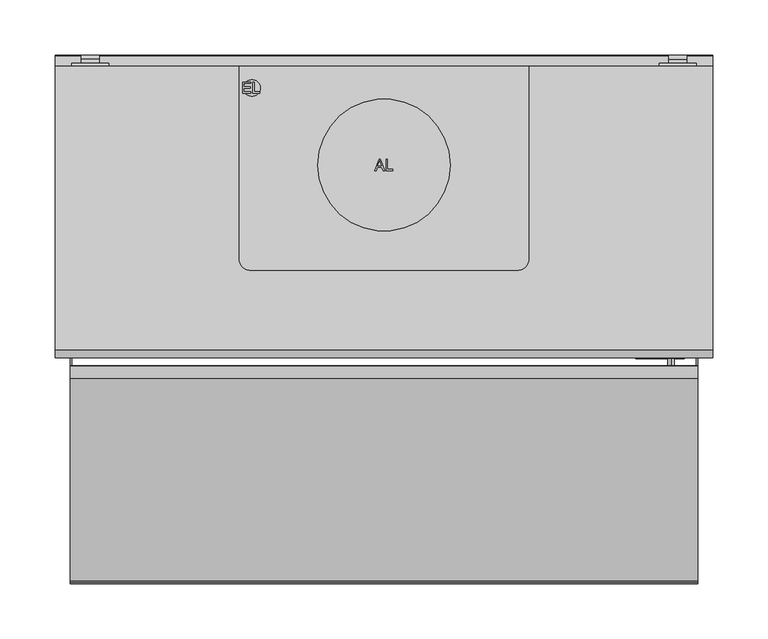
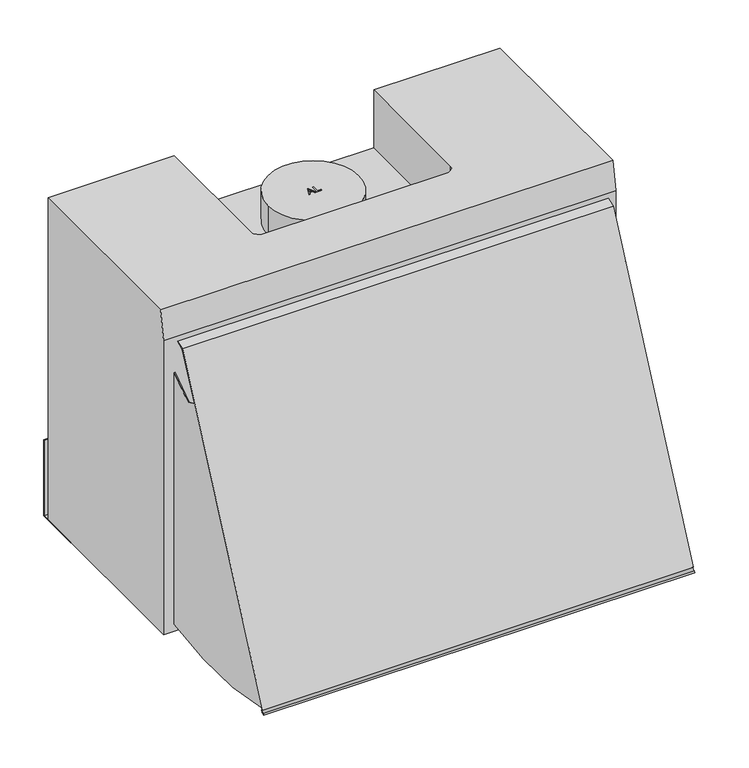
"""IFC4 building model written with IfcOpenShell, lengths in millimetres: proxy geometry, 12697760_D_DAZ1620_EDST-OPTIK : 28Z1620S_D_12697760_DAZ1620_EDST-OPTIK."""

from ifc_helpers import new_model, si_unit, point, frame, frame_2d, origin, place, context, project, spatial, polyline, circle_curve, ellipse_curve, trimmed, segment, composite_curve, outline, extrude, source, transform, mapped, element, save
from ifc_brep_helpers import plane_surface, cylinder_surface, revolved_surface, advanced_brep


def specialty_equipment_7dc275c3(model_context):
    return source(origin(), model_context, "Body", "SolidModel", [
        advanced_brep(
        [(261.0, -276.0, 120.0), (261.0, -276.0, 114.0), (261.0, -286.0, 114.0), (261.0, -286.0, 120.0), (261.0, -276.0, 117.0), (261.0, -289.0, 117.0)],
        [
            (0, 1, circle_curve(frame((261.0, -276.0, 117.0), z_axis=(0.0, -1.0, 0.0), x_axis=(0.0, 0.0, -1.0)), 3.0)),
            (1, 2),
            (2, 3, circle_curve(frame((261.0, -286.0, 117.0), z_axis=(0.0, 1.0, 0.0), x_axis=(0.0, 0.0, -1.0)), 3.0)),
            (3, 0),
            (1, 0, circle_curve(frame((261.0, -276.0, 117.0), z_axis=(0.0, -1.0, 0.0), x_axis=(0.0, 0.0, -1.0)), 3.0)),
            (3, 2, circle_curve(frame((261.0, -286.0, 117.0), z_axis=(0.0, 1.0, 0.0), x_axis=(0.0, 0.0, -1.0)), 3.0)),
            (4, 1),
            (0, 4),
            (2, 5, circle_curve(frame((261.0, -286.0, 117.0), z_axis=(-1.0, 0.0, 0.0), x_axis=(0.0, 1.0, 0.0)), 3.0)),
            (5, 3, circle_curve(frame((261.0, -286.0, 117.0), z_axis=(-1.0, 0.0, 0.0), x_axis=(0.0, 1.0, 0.0)), 3.0)),
        ],
        [
            cylinder_surface(frame((261.0, -356.2675309, 117.0), z_axis=(0.0, 1.0, 0.0), x_axis=(0.0, 0.0, -1.0)), 3.0),
            plane_surface(frame((261.0, -276.0, 117.0), z_axis=(0.0, 1.0, 0.0), x_axis=(0.0, 0.0, -1.0))),
            revolved_surface(trimmed(ellipse_curve(frame((261.0, -286.0, 117.0), z_axis=(1.0, 0.0, 0.0), x_axis=(0.0, 1.0, 0.0)), 3.0, 3.0), [point((261.0, -289.0, 117.0))], [point((261.0, -286.0, 114.0))], True, "CARTESIAN"), (261.0, -356.2675309, 117.0), (0.0, 1.0, 0.0)),
        ],
        [
            (0, [[1, 2, 3, 4]]),
            (0, [[5, -4, 6, -2]]),
            (1, [[7, -1, 8]]),
            (1, [[-8, -5, -7]]),
            (2, [[-3, 9, 10]]),
            (2, [[-6, -10, -9]]),
        ],
    ),
        extrude(outline(composite_curve([segment(polyline([(63.3835864, 243.9293961), (63.3835864, 237.6447428)]), True, "CONTINUOUS"), segment(trimmed(circle_curve(frame_2d((61.3835864, 237.6447428)), 2.0), [point((63.3835864, 237.6447428))], [point((59.3835864, 237.6447428))], False, "CARTESIAN"), True, "CONTINUOUS"), segment(polyline([(59.3835864, 237.6447428), (59.3835864, 243.9293961)]), True, "CONTINUOUS"), segment(trimmed(circle_curve(frame_2d((61.3835864, 243.9293961)), 2.0), [point((59.3835864, 243.9293961))], [point((63.3835864, 243.9293961))], False, "CARTESIAN"), True, "CONTINUOUS")], self_intersect=False)), frame((0.0, -276.0, 0.0), z_axis=(0.0, 1.0, 0.0), x_axis=(0.0, 0.0, 1.0)), (0.0, 0.0, 1.0), 6.0),
        extrude(outline(composite_curve([segment(polyline([(59.2654381, 263.9293961), (59.2654381, 257.6447428)]), True, "CONTINUOUS"), segment(trimmed(circle_curve(frame_2d((57.2654381, 257.6447428)), 2.0), [point((59.2654381, 257.6447428))], [point((55.2654381, 257.6447428))], False, "CARTESIAN"), True, "CONTINUOUS"), segment(polyline([(55.2654381, 257.6447428), (55.2654381, 263.9293961)]), True, "CONTINUOUS"), segment(trimmed(circle_curve(frame_2d((57.2654381, 263.9293961)), 2.0), [point((55.2654381, 263.9293961))], [point((59.2654381, 263.9293961))], False, "CARTESIAN"), True, "CONTINUOUS")], self_intersect=False)), frame((0.0, -276.0, 0.0), z_axis=(0.0, 1.0, 0.0), x_axis=(0.0, 0.0, 1.0)), (0.0, 0.0, 1.0), 6.0),
        extrude(outline(composite_curve([segment(polyline([(89.2654381, 263.9293961), (89.2654381, 257.6447428)]), True, "CONTINUOUS"), segment(trimmed(circle_curve(frame_2d((87.2654381, 257.6447428)), 2.0), [point((89.2654381, 257.6447428))], [point((85.2654381, 257.6447428))], False, "CARTESIAN"), True, "CONTINUOUS"), segment(polyline([(85.2654381, 257.6447428), (85.2654381, 263.9293961)]), True, "CONTINUOUS"), segment(trimmed(circle_curve(frame_2d((87.2654381, 263.9293961)), 2.0), [point((85.2654381, 263.9293961))], [point((89.2654381, 263.9293961))], False, "CARTESIAN"), True, "CONTINUOUS")], self_intersect=False)), frame((0.0, -276.0, 0.0), z_axis=(0.0, 1.0, 0.0), x_axis=(0.0, 0.0, 1.0)), (0.0, 0.0, 1.0), 6.0),
        advanced_brep(
        [(270.0, -265.0, 107.0), (273.0, -265.0, 104.0), (273.0, -265.0, 33.0), (270.0, -265.0, 30.0), (232.0, -265.0, 30.0), (229.0, -265.0, 33.0), (229.0, -265.0, 104.0), (232.0, -265.0, 107.0), (270.0, -276.0, 107.0), (232.0, -276.0, 107.0), (229.0, -276.0, 104.0), (229.0, -276.0, 33.0), (232.0, -276.0, 30.0), (270.0, -276.0, 30.0), (273.0, -276.0, 33.0), (273.0, -276.0, 104.0), (248.0, -276.0, 101.0), (248.0, -276.0, 48.0), (234.0, -276.0, 48.0), (234.0, -276.0, 101.0), (268.0, -276.0, 101.0), (268.0, -276.0, 48.0), (254.0, -276.0, 48.0), (254.0, -276.0, 101.0), (248.0, -270.0, 101.0), (234.0, -270.0, 101.0), (234.0, -270.0, 48.0), (248.0, -270.0, 48.0), (268.0, -270.0, 101.0), (254.0, -270.0, 101.0), (254.0, -270.0, 48.0), (268.0, -270.0, 48.0)],
        [
            (0, 1, circle_curve(frame((270.0, -265.0, 104.0), z_axis=(0.0, 1.0, 0.0), x_axis=(-1.0, 0.0, 0.0)), 3.0)),
            (1, 2),
            (2, 3, circle_curve(frame((270.0, -265.0, 33.0), z_axis=(0.0, 1.0, 0.0), x_axis=(-1.0, 0.0, 0.0)), 3.0)),
            (3, 4),
            (4, 5, circle_curve(frame((232.0, -265.0, 33.0), z_axis=(0.0, 1.0, 0.0), x_axis=(-1.0, 0.0, 0.0)), 3.0)),
            (5, 6),
            (6, 7, circle_curve(frame((232.0, -265.0, 104.0), z_axis=(0.0, 1.0, 0.0), x_axis=(-1.0, 0.0, 0.0)), 3.0)),
            (7, 0),
            (8, 9),
            (9, 10, circle_curve(frame((232.0, -276.0, 104.0), z_axis=(0.0, -1.0, 0.0), x_axis=(-1.0, 0.0, 0.0)), 3.0)),
            (10, 11),
            (11, 12, circle_curve(frame((232.0, -276.0, 33.0), z_axis=(0.0, -1.0, 0.0), x_axis=(-1.0, 0.0, 0.0)), 3.0)),
            (12, 13),
            (13, 14, circle_curve(frame((270.0, -276.0, 33.0), z_axis=(0.0, -1.0, 0.0), x_axis=(-1.0, 0.0, 0.0)), 3.0)),
            (14, 15),
            (15, 8, circle_curve(frame((270.0, -276.0, 104.0), z_axis=(0.0, -1.0, 0.0), x_axis=(-1.0, 0.0, 0.0)), 3.0)),
            (16, 17),
            (17, 18),
            (18, 19),
            (19, 16),
            (20, 21),
            (21, 22),
            (22, 23),
            (23, 20),
            (1, 15),
            (14, 2),
            (3, 13),
            (12, 4),
            (5, 11),
            (10, 6),
            (7, 9),
            (8, 0),
            (24, 25),
            (25, 26),
            (26, 27),
            (27, 24),
            (28, 29),
            (29, 30),
            (30, 31),
            (31, 28),
            (27, 17),
            (16, 24),
            (26, 18),
            (25, 19),
            (31, 21),
            (20, 28),
            (30, 22),
            (29, 23),
        ],
        [
            plane_surface(frame((267.0, -265.0, 104.0), z_axis=(0.0, 1.0, 0.0), x_axis=(0.0, 0.0, 1.0))),
            plane_surface(frame((267.0, -276.0, 104.0), z_axis=(0.0, -1.0, 0.0), x_axis=(0.0, 0.0, -1.0))),
            plane_surface(frame((273.0, -265.0, 104.0), z_axis=(1.0, 0.0, 0.0), x_axis=(0.0, -1.0, 0.0))),
            plane_surface(frame((270.0, -265.0, 30.0), z_axis=(0.0, 0.0, -1.0), x_axis=(0.0, -1.0, 0.0))),
            plane_surface(frame((229.0, -265.0, 33.0), z_axis=(-1.0, 0.0, 0.0), x_axis=(0.0, -1.0, 0.0))),
            plane_surface(frame((232.0, -265.0, 107.0), z_axis=(0.0, 0.0, 1.0), x_axis=(0.0, -1.0, 0.0))),
            cylinder_surface(frame((270.0, -276.0, 104.0), z_axis=(0.0, 1.0, 0.0), x_axis=(-1.0, 0.0, 0.0)), 3.0),
            cylinder_surface(frame((270.0, -276.0, 33.0), z_axis=(0.0, 1.0, 0.0), x_axis=(-1.0, 0.0, 0.0)), 3.0),
            cylinder_surface(frame((232.0, -276.0, 33.0), z_axis=(0.0, 1.0, 0.0), x_axis=(-1.0, 0.0, 0.0)), 3.0),
            cylinder_surface(frame((232.0, -276.0, 104.0), z_axis=(0.0, 1.0, 0.0), x_axis=(-1.0, 0.0, 0.0)), 3.0),
            plane_surface(frame((248.0, -270.0, 101.0), z_axis=(0.0, -1.0, 0.0), x_axis=(0.0, 0.0, -1.0))),
            plane_surface(frame((248.0, -270.0, 101.0), z_axis=(-1.0, 0.0, 0.0), x_axis=(0.0, -1.0, 0.0))),
            plane_surface(frame((248.0, -270.0, 48.0), z_axis=(0.0, 0.0, 1.0), x_axis=(0.0, -1.0, 0.0))),
            plane_surface(frame((234.0, -270.0, 48.0), z_axis=(1.0, 0.0, 0.0), x_axis=(0.0, -1.0, 0.0))),
            plane_surface(frame((234.0, -270.0, 101.0), z_axis=(0.0, 0.0, -1.0), x_axis=(0.0, -1.0, 0.0))),
            plane_surface(frame((268.0, -270.0, 101.0), z_axis=(-1.0, 0.0, 0.0), x_axis=(0.0, -1.0, 0.0))),
            plane_surface(frame((268.0, -270.0, 48.0), z_axis=(0.0, 0.0, 1.0), x_axis=(0.0, -1.0, 0.0))),
            plane_surface(frame((254.0, -270.0, 48.0), z_axis=(1.0, 0.0, 0.0), x_axis=(0.0, -1.0, 0.0))),
            plane_surface(frame((254.0, -270.0, 101.0), z_axis=(0.0, 0.0, -1.0), x_axis=(0.0, -1.0, 0.0))),
        ],
        [
            (0, [[1, 2, 3, 4, 5, 6, 7, 8]]),
            (1, [[9, 10, 11, 12, 13, 14, 15, 16], [17, 18, 19, 20], [21, 22, 23, 24]]),
            (2, [[-2, 25, -15, 26]]),
            (3, [[-4, 27, -13, 28]]),
            (4, [[-6, 29, -11, 30]]),
            (5, [[-8, 31, -9, 32]]),
            (6, [[-1, -32, -16, -25]]),
            (7, [[-3, -26, -14, -27]]),
            (8, [[-5, -28, -12, -29]]),
            (9, [[-7, -30, -10, -31]]),
            (10, [[33, 34, 35, 36]]),
            (10, [[37, 38, 39, 40]]),
            (11, [[-36, 41, -17, 42]]),
            (12, [[-35, 43, -18, -41]]),
            (13, [[-34, 44, -19, -43]]),
            (14, [[-33, -42, -20, -44]]),
            (15, [[-40, 45, -21, 46]]),
            (16, [[-39, 47, -22, -45]]),
            (17, [[-38, 48, -23, -47]]),
            (18, [[-37, -46, -24, -48]]),
        ],
    ),
        advanced_brep(
        [(-163.0, -134.1564627, 1.5), (-163.0, -159.1564627, 1.5), (-163.0, -109.1564627, 1.5), (-163.0, -157.4426851, 0.3), (-163.0, -110.8702403, 0.3), (-163.0, -134.1564627, 0.3)],
        [
            (0, 1),
            (1, 2, circle_curve(frame((-163.0, -134.1564627, 1.5), z_axis=(0.0, 0.0, 1.0), x_axis=(0.0, -1.0000000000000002, 0.0)), 25.0)),
            (2, 0),
            (2, 1, circle_curve(frame((-163.0, -134.1564627, 1.5), z_axis=(0.0, 0.0, 1.0), x_axis=(0.0, -1.0000000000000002, 0.0)), 25.0)),
            (1, 3),
            (3, 4, circle_curve(frame((-163.0, -134.1564627, 0.3), z_axis=(0.0, 0.0, 1.0), x_axis=(0.0, -1.0000000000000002, 0.0)), 23.2862224)),
            (4, 2),
            (4, 3, circle_curve(frame((-163.0, -134.1564627, 0.3), z_axis=(0.0, 0.0, 1.0), x_axis=(0.0, -1.0000000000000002, 0.0)), 23.2862224)),
            (3, 5),
            (5, 4),
        ],
        [
            plane_surface(frame((-163.0, -134.1564627, 1.5), z_axis=(0.0, 0.0, 1.0), x_axis=(0.0, -1.0, 0.0))),
            revolved_surface(polyline([(-163.0, -157.4426851, 0.3), (-163.0, -159.1564627, 1.5)]), (-163.0, -134.1564627, 2436.4), (0.0, 0.0, 1.0)),
            plane_surface(frame((-163.0, -134.1564627, 0.3), z_axis=(0.0, 0.0, -1.0), x_axis=(0.0, -1.0, 0.0))),
        ],
        [
            (0, [[1, 2, 3]]),
            (0, [[-3, 4, -1]]),
            (1, [[-2, 5, 6, 7]]),
            (1, [[-4, -7, 8, -5]]),
            (2, [[-6, 9, 10]]),
            (2, [[-8, -10, -9]]),
        ],
    ),
        advanced_brep(
        [(163.0, -109.1564627, 1.5), (163.0, -159.1564627, 1.5), (163.0, -134.1564627, 1.5), (163.0, -110.8702403, 0.3), (163.0, -157.4426851, 0.3), (163.0, -134.1564627, 0.3)],
        [
            (0, 1, circle_curve(frame((163.0, -134.1564627, 1.5), z_axis=(0.0, 0.0, 1.0), x_axis=(0.0, -1.0000000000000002, 0.0)), 25.0)),
            (1, 2),
            (2, 0),
            (1, 0, circle_curve(frame((163.0, -134.1564627, 1.5), z_axis=(0.0, 0.0, 1.0), x_axis=(0.0, -1.0000000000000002, 0.0)), 25.0)),
            (3, 4, circle_curve(frame((163.0, -134.1564627, 0.3), z_axis=(0.0, 0.0, 1.0), x_axis=(0.0, -1.0000000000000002, 0.0)), 23.2862224)),
            (4, 1),
            (0, 3),
            (4, 3, circle_curve(frame((163.0, -134.1564627, 0.3), z_axis=(0.0, 0.0, 1.0), x_axis=(0.0, -1.0000000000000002, 0.0)), 23.2862224)),
            (5, 4),
            (3, 5),
        ],
        [
            plane_surface(frame((163.0, -134.1564627, 1.5), z_axis=(0.0, 0.0, 1.0), x_axis=(0.0, -1.0, 0.0))),
            revolved_surface(polyline([(163.0, -159.1564627, 1.5), (163.0, -157.4426851, 0.3)]), (163.0, -134.1564627, 2436.4), (0.0, 0.0, -1.0)),
            plane_surface(frame((163.0, -134.1564627, 0.3), z_axis=(0.0, 0.0, -1.0), x_axis=(0.0, -1.0, 0.0))),
        ],
        [
            (0, [[1, 2, 3]]),
            (0, [[4, -3, -2]]),
            (1, [[5, 6, -1, 7]]),
            (1, [[8, -7, -4, -6]]),
            (2, [[9, -5, 10]]),
            (2, [[-10, -8, -9]]),
        ],
    ),
        extrude(outline(polyline([(0.0, -5.0), (0.0, 0.0), (203.0, 0.0), (203.0, -5.0), (0.0, -5.0)])), frame((-212.5, -193.7933514, 51.0251579), z_axis=(0.0, -0.26723837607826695, 0.9636304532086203), x_axis=(1.0, 0.0, 0.0)), (0.0, 0.0, 1.0), 260.1903978),
        extrude(outline(polyline([(0.0, -279.1903977), (0.0, 0.0), (222.5, 0.0), (222.5, -279.1903977), (0.0, -279.1903977)]), holes=[polyline([(10.0, -9.5), (10.0, -269.6903977), (213.0, -269.6903977), (213.0, -9.5), (10.0, -9.5)])]), frame((-222.5, -198.0, 40.0), z_axis=(0.0, 0.963630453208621, 0.2672383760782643), x_axis=(1.0, 0.0, 0.0)), (0.0, 0.0, 1.0), 9.0),
        extrude(outline(polyline([(0.0, -5.0), (0.0, 0.0), (203.5, 0.0), (203.5, -5.0), (0.0, -5.0)])), frame((213.0, -198.6115037, 49.6889661), z_axis=(0.0, -0.2672383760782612, 0.9636304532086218), x_axis=(-1.0, 0.0, 0.0)), (0.0, 0.0, 1.0), 260.1903978),
        extrude(outline(polyline([(0.0, -279.1903977), (0.0, 0.0), (222.5, 0.0), (222.5, -279.1903977), (0.0, -279.1903977)]), holes=[polyline([(9.5, -9.5), (9.5, -269.6903977), (213.0, -269.6903977), (213.0, -9.5), (9.5, -9.5)])]), frame((222.5, -272.6103885, 309.0363695), z_axis=(0.0, 0.9636304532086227, 0.26723837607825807), x_axis=(-1.0, 0.0, 0.0)), (0.0, 0.0, 1.0), 9.0),
        extrude(outline(polyline([(0.0, -43.0), (0.0, 0.0), (32.0, 0.0), (32.0, -43.0), (0.0, -43.0)]), holes=[polyline([(6.0, -27.0), (6.0, -36.0), (26.0, -36.0), (26.0, -27.0), (6.0, -27.0)])]), frame((-127.0, -200.5387646, 49.1544893), z_axis=(0.0, 0.9636304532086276, 0.26723837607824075), x_axis=(1.0, 0.0, 0.0)), (0.0, 0.0, 1.0), 2.0),
        extrude(outline(polyline([(0.0, -43.0), (0.0, 0.0), (32.0, 0.0), (32.0, -43.0), (0.0, -43.0)]), holes=[polyline([(6.0, -7.0), (6.0, -16.0), (26.0, -16.0), (26.0, -7.0), (6.0, -7.0)])]), frame((127.25, -212.0300147, 90.5905988), z_axis=(0.0, 0.9636304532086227, 0.2672383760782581), x_axis=(-1.0, 0.0, 0.0)), (0.0, 0.0, 1.0), 2.0),
        advanced_brep(
        [(284.0, -35.5, 423.3), (284.0, -35.5, 380.3), (284.0, -7.5, 380.3), (284.0, -7.5, 434.3), (284.0, -11.5, 438.3), (284.0, -177.5, 438.3), (284.0, -177.5, 423.3), (250.0, -35.5, 423.3), (250.0, -177.5, 423.3), (250.0, -177.5, 438.3), (250.0, -11.5, 438.3), (250.0, -7.5, 434.3), (250.0, -7.5, 380.3), (250.0, -35.5, 380.3), (259.0, -7.5, 406.3), (259.0, -7.5, 404.3), (275.0, -7.5, 404.3), (275.0, -7.5, 406.3), (259.0, -4.0, 406.3), (259.0, 0.0, 402.3), (259.0, 0.0, 394.3), (259.0, -2.0, 394.3), (259.0, -2.0, 402.3), (259.0, -4.0, 404.3), (275.0, -4.0, 404.3), (275.0, -2.0, 402.3), (275.0, -2.0, 394.3), (275.0, 0.0, 394.3), (275.0, 0.0, 402.3), (275.0, -4.0, 406.3)],
        [
            (0, 1),
            (1, 2),
            (2, 3),
            (3, 4, circle_curve(frame((284.0, -11.5, 434.3), z_axis=(1.0, 0.0, 0.0), x_axis=(0.0, 1.0, 0.0)), 4.0)),
            (4, 5),
            (5, 6),
            (6, 0),
            (7, 8),
            (8, 9),
            (9, 10),
            (10, 11, circle_curve(frame((250.0, -11.5, 434.3), z_axis=(-1.0, 0.0, 0.0), x_axis=(0.0, 1.0, 0.0)), 4.0)),
            (11, 12),
            (12, 13),
            (13, 7),
            (0, 7),
            (13, 1),
            (12, 2),
            (11, 3),
            (14, 15),
            (15, 16),
            (16, 17),
            (17, 14),
            (10, 4),
            (9, 5),
            (8, 6),
            (14, 18),
            (18, 19, circle_curve(frame((259.0, -4.0, 402.3), z_axis=(-1.0, 0.0, 0.0), x_axis=(0.0, 1.0, 0.0)), 4.0)),
            (19, 20),
            (20, 21),
            (21, 22),
            (22, 23, circle_curve(frame((259.0, -4.0, 402.3), z_axis=(1.0, 0.0, 0.0), x_axis=(0.0, 1.0, 0.0)), 2.0)),
            (23, 15),
            (16, 24),
            (24, 25, circle_curve(frame((275.0, -4.0, 402.3), z_axis=(-1.0, 0.0, 0.0), x_axis=(0.0, 1.0, 0.0)), 2.0)),
            (25, 26),
            (26, 27),
            (27, 28),
            (28, 29, circle_curve(frame((275.0, -4.0, 402.3), z_axis=(1.0, 0.0, 0.0), x_axis=(0.0, 1.0, 0.0)), 4.0)),
            (29, 17),
            (23, 24),
            (22, 25),
            (21, 26),
            (20, 27),
            (19, 28),
            (18, 29),
        ],
        [
            plane_surface(frame((284.0, -35.5, 423.3), z_axis=(1.0, 0.0, 0.0), x_axis=(0.0, 0.0, -1.0))),
            plane_surface(frame((250.0, -35.5, 423.3), z_axis=(-1.0, 0.0, 0.0), x_axis=(0.0, 0.0, 1.0))),
            plane_surface(frame((284.0, -35.5, 423.3), z_axis=(0.0, -1.0, 0.0), x_axis=(-1.0, 0.0, 0.0))),
            plane_surface(frame((284.0, -35.5, 380.3), z_axis=(0.0, 0.0, -1.0), x_axis=(-1.0, 0.0, 0.0))),
            plane_surface(frame((284.0, -7.5, 380.3), z_axis=(0.0, 1.0, 0.0), x_axis=(-1.0, 0.0, 0.0))),
            cylinder_surface(frame((250.0, -11.5, 434.3), z_axis=(1.0, 0.0, 0.0), x_axis=(0.0, 1.0, 0.0)), 4.0),
            plane_surface(frame((284.0, -11.5, 438.3), z_axis=(0.0, 0.0, 1.0), x_axis=(-1.0, 0.0, 0.0))),
            plane_surface(frame((284.0, -177.5, 438.3), z_axis=(0.0, -1.0, 0.0), x_axis=(-1.0, 0.0, 0.0))),
            plane_surface(frame((284.0, -177.5, 423.3), z_axis=(0.0, 0.0, -1.0), x_axis=(-1.0, 0.0, 0.0))),
            plane_surface(frame((259.0, -7.5, 406.3), z_axis=(-1.0, 0.0, 0.0), x_axis=(0.0, 0.0, 1.0))),
            plane_surface(frame((275.0, -7.5, 406.3), z_axis=(1.0, 0.0, 0.0), x_axis=(0.0, 0.0, -1.0))),
            plane_surface(frame((275.0, -7.5, 404.3), z_axis=(0.0, 1.991702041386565e-12, -1.0), x_axis=(-1.0, 0.0, 0.0))),
            revolved_surface(polyline([(259.0, -2.0, 402.3), (275.0, -2.0, 402.3)]), (259.0, -4.0, 402.3), (-1.0, 0.0, 0.0)),
            plane_surface(frame((275.0, -2.0, 402.3), z_axis=(0.0, -1.0, 0.0), x_axis=(-1.0, 0.0, 0.0))),
            plane_surface(frame((275.0, -2.0, 394.3), z_axis=(0.0, 0.0, -1.0), x_axis=(-1.0, 0.0, 0.0))),
            plane_surface(frame((275.0, 0.0, 394.3), z_axis=(0.0, 1.0, 0.0), x_axis=(-1.0, 0.0, 0.0))),
            cylinder_surface(frame((259.0, -4.0, 402.3), z_axis=(1.0, 0.0, 0.0), x_axis=(0.0, 1.0, 0.0)), 4.0),
            plane_surface(frame((275.0, -4.0, 406.3), z_axis=(0.0, 0.0, 1.0), x_axis=(-1.0, 0.0, 0.0))),
        ],
        [
            (0, [[1, 2, 3, 4, 5, 6, 7]]),
            (1, [[8, 9, 10, 11, 12, 13, 14]]),
            (2, [[-1, 15, -14, 16]]),
            (3, [[-2, -16, -13, 17]]),
            (4, [[-3, -17, -12, 18], [19, 20, 21, 22]]),
            (5, [[-4, -18, -11, 23]]),
            (6, [[-5, -23, -10, 24]]),
            (7, [[-6, -24, -9, 25]]),
            (8, [[-7, -25, -8, -15]]),
            (9, [[26, 27, 28, 29, 30, 31, 32, -19]]),
            (10, [[33, 34, 35, 36, 37, 38, 39, -21]]),
            (11, [[-32, 40, -33, -20]]),
            (12, [[-31, 41, -34, -40]]),
            (13, [[-30, 42, -35, -41]]),
            (14, [[-29, 43, -36, -42]]),
            (15, [[-28, 44, -37, -43]]),
            (16, [[-27, 45, -38, -44]]),
            (17, [[-26, -22, -39, -45]]),
        ],
    ),
        advanced_brep(
        [(-250.0, -11.5, 438.3), (-250.0, -177.5, 438.3), (-250.0, -177.5, 423.3), (-250.0, -35.5, 423.3), (-250.0, -35.5, 380.3), (-250.0, -7.5, 380.3), (-250.0, -7.5, 434.3), (-284.0, -11.5, 438.3), (-284.0, -7.5, 434.3), (-284.0, -7.5, 380.3), (-284.0, -35.5, 380.3), (-284.0, -35.5, 423.3), (-284.0, -177.5, 423.3), (-284.0, -177.5, 438.3), (-259.0, -7.5, 404.3), (-259.0, -7.5, 406.3), (-275.0, -7.5, 406.3), (-275.0, -7.5, 404.3), (-259.0, -4.0, 406.3), (-259.0, -4.0, 404.3), (-259.0, -2.0, 402.3), (-259.0, -2.0, 394.3), (-259.0, 0.0, 394.3), (-259.0, 0.0, 402.3), (-275.0, -4.0, 406.3), (-275.0, 0.0, 402.3), (-275.0, 0.0, 394.3), (-275.0, -2.0, 394.3), (-275.0, -2.0, 402.3), (-275.0, -4.0, 404.3)],
        [
            (0, 1),
            (1, 2),
            (2, 3),
            (3, 4),
            (4, 5),
            (5, 6),
            (6, 0, circle_curve(frame((-250.0, -11.5, 434.3), z_axis=(1.0, 0.0, 0.0), x_axis=(0.0, 1.0, 0.0)), 4.0)),
            (7, 8, circle_curve(frame((-284.0, -11.5, 434.3), z_axis=(-1.0, 0.0, 0.0), x_axis=(0.0, 1.0, 0.0)), 4.0)),
            (8, 9),
            (9, 10),
            (10, 11),
            (11, 12),
            (12, 13),
            (13, 7),
            (0, 7),
            (13, 1),
            (12, 2),
            (11, 3),
            (10, 4),
            (9, 5),
            (6, 8),
            (14, 15),
            (15, 16),
            (16, 17),
            (17, 14),
            (18, 15),
            (14, 19),
            (19, 20, circle_curve(frame((-259.0, -4.0, 402.3), z_axis=(-1.0, 0.0, 0.0), x_axis=(0.0, 1.0, 0.0)), 2.0)),
            (20, 21),
            (21, 22),
            (22, 23),
            (23, 18, circle_curve(frame((-259.0, -4.0, 402.3), z_axis=(1.0, 0.0, 0.0), x_axis=(0.0, 1.0, 0.0)), 4.0)),
            (24, 25, circle_curve(frame((-275.0, -4.0, 402.3), z_axis=(-1.0, 0.0, 0.0), x_axis=(0.0, 1.0, 0.0)), 4.0)),
            (25, 26),
            (26, 27),
            (27, 28),
            (28, 29, circle_curve(frame((-275.0, -4.0, 402.3), z_axis=(1.0, 0.0, 0.0), x_axis=(0.0, 1.0, 0.0)), 2.0)),
            (29, 17),
            (16, 24),
            (18, 24),
            (29, 19),
            (28, 20),
            (27, 21),
            (26, 22),
            (25, 23),
        ],
        [
            plane_surface(frame((-250.0, -177.5, 438.3), z_axis=(1.0, 0.0, 0.0), x_axis=(0.0, -1.0, 0.0))),
            plane_surface(frame((-284.0, -177.5, 438.3), z_axis=(-1.0, 0.0, 0.0), x_axis=(0.0, 1.0, 0.0))),
            plane_surface(frame((-250.0, -11.5, 438.3), z_axis=(0.0, 0.0, 1.0), x_axis=(-1.0, 0.0, 0.0))),
            plane_surface(frame((-250.0, -177.5, 438.3), z_axis=(0.0, -1.0, 0.0), x_axis=(-1.0, 0.0, 0.0))),
            plane_surface(frame((-250.0, -177.5, 423.3), z_axis=(0.0, 0.0, -1.0), x_axis=(-1.0, 0.0, 0.0))),
            plane_surface(frame((-250.0, -35.5, 423.3), z_axis=(0.0, -1.0, 0.0), x_axis=(-1.0, 0.0, 0.0))),
            plane_surface(frame((-250.0, -35.5, 380.3), z_axis=(0.0, 0.0, -1.0), x_axis=(-1.0, 0.0, 0.0))),
            cylinder_surface(frame((-284.0, -11.5, 434.3), z_axis=(1.0, 0.0, 0.0), x_axis=(0.0, 1.0, 0.0)), 4.0),
            plane_surface(frame((-250.0, -7.5, 380.3), z_axis=(0.0, 1.0, 0.0), x_axis=(-1.0, 0.0, 0.0))),
            plane_surface(frame((-259.0, -7.5, 406.3), z_axis=(1.0, 0.0, 0.0), x_axis=(0.0, -1.0, 0.0))),
            plane_surface(frame((-275.0, -7.5, 406.3), z_axis=(-1.0, 0.0, 0.0), x_axis=(0.0, 1.0, 0.0))),
            plane_surface(frame((-259.0, -4.0, 406.3), z_axis=(0.0, 0.0, 1.0), x_axis=(-1.0, 0.0, 0.0))),
            plane_surface(frame((-259.0, -7.5, 404.3), z_axis=(0.0, 1.9917020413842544e-12, -1.0), x_axis=(-1.0, 0.0, 0.0))),
            revolved_surface(polyline([(-275.0, -2.0, 402.3), (-259.0, -2.0, 402.3)]), (-275.0, -4.0, 402.3), (-1.0, 0.0, 0.0)),
            plane_surface(frame((-259.0, -2.0, 402.3), z_axis=(0.0, -1.0, 0.0), x_axis=(-1.0, 0.0, 0.0))),
            plane_surface(frame((-259.0, -2.0, 394.3), z_axis=(0.0, 0.0, -1.0), x_axis=(-1.0, 0.0, 0.0))),
            plane_surface(frame((-259.0, 0.0, 394.3), z_axis=(0.0, 1.0, 0.0), x_axis=(-1.0, 0.0, 0.0))),
            cylinder_surface(frame((-275.0, -4.0, 402.3), z_axis=(1.0, 0.0, 0.0), x_axis=(0.0, 1.0, 0.0)), 4.0),
        ],
        [
            (0, [[1, 2, 3, 4, 5, 6, 7]]),
            (1, [[8, 9, 10, 11, 12, 13, 14]]),
            (2, [[-1, 15, -14, 16]]),
            (3, [[-2, -16, -13, 17]]),
            (4, [[-3, -17, -12, 18]]),
            (5, [[-4, -18, -11, 19]]),
            (6, [[-5, -19, -10, 20]]),
            (7, [[-7, 21, -8, -15]]),
            (8, [[-6, -20, -9, -21], [22, 23, 24, 25]]),
            (9, [[26, -22, 27, 28, 29, 30, 31, 32]]),
            (10, [[33, 34, 35, 36, 37, 38, -24, 39]]),
            (11, [[-26, 40, -39, -23]]),
            (12, [[-27, -25, -38, 41]]),
            (13, [[-28, -41, -37, 42]]),
            (14, [[-29, -42, -36, 43]]),
            (15, [[-30, -43, -35, 44]]),
            (16, [[-31, -44, -34, 45]]),
            (17, [[-32, -45, -33, -40]]),
        ],
    ),
        extrude(outline(composite_curve([segment(trimmed(circle_curve(frame_2d((0.0, -100.0)), 60.0), [point((60.0, -100.0))], [point((-60.0, -100.0))], False, "CARTESIAN"), True, "CONTINUOUS"), segment(trimmed(circle_curve(frame_2d((0.0, -100.0)), 60.0), [point((-60.0, -100.0))], [point((60.0, -100.0))], False, "CARTESIAN"), True, "CONTINUOUS")], self_intersect=False)), frame((0.0, 0.0, 369.8), z_axis=(0.0, 0.0, 1.0), x_axis=(1.0, 0.0, 0.0)), (0.0, 0.0, 1.0), 41.0),
        advanced_brep(
        [(285.0, -275.0, 10.7172957), (285.0, -275.0, 362.3834721), (285.0, -306.966911, 340.0), (285.0, -321.2534133, 346.6619054), (285.0, -293.4149971, 406.3615814), (285.0, -282.4705866, 410.3450211), (285.0, -282.7442027, 411.0967752), (285.0, -294.0, 407.0), (285.0, -477.5146257, 13.4516152), (285.0, -479.2050987, 9.8263841), (285.0, -480.2616444, 7.5606146), (285.0, -479.5365981, 7.22252), (285.0, -478.7669805, 8.8729703), (285.0, -476.5026514, 13.7288398), (285.0, -475.6702866, 15.5138518), (284.0, -306.966911, 340.0), (284.0, -275.0, 362.3834721), (284.0, -275.0, 10.7172957), (284.0, -475.6702866, 15.5138518), (284.0, -321.2534133, 346.6619054), (-285.0, -294.0, 407.0), (-285.0, -477.5146257, 13.4516152), (-285.0, -282.7442027, 411.0967752), (-285.0, -282.4705866, 410.3450211), (-285.0, -293.4149971, 406.3615814), (-285.0, -321.2534133, 346.6619054), (-285.0, -306.966911, 340.0), (-285.0, -275.0, 362.3834721), (-285.0, -275.0, 10.7172957), (-285.0, -475.6702866, 15.5138518), (-285.0, -476.5026514, 13.7288398), (-285.0, -478.7669805, 8.8729703), (-285.0, -479.5365981, 7.22252), (-285.0, -480.2616444, 7.5606146), (-285.0, -479.2050987, 9.8263841), (-284.0, -475.6702866, 15.5138518), (-284.0, -321.2534133, 346.6619054), (-284.0, -275.0, 10.7172957), (-284.0, -275.0, 362.3834721), (-284.0, -306.966911, 340.0)],
        [
            (0, 1),
            (1, 2),
            (2, 3),
            (3, 4),
            (4, 5),
            (5, 6),
            (6, 7),
            (7, 8),
            (8, 9, circle_curve(frame((285.0, -478.3731293, 11.6451862), z_axis=(-1.0, 0.0, 0.0), x_axis=(0.0, 1.0, 0.0)), 2.0000536)),
            (9, 10),
            (10, 11),
            (11, 12),
            (12, 13, circle_curve(frame((285.0, -478.3731293, 11.6451862), z_axis=(1.0, 0.0, 0.0), x_axis=(0.0, 1.0, 0.0)), 2.8000536)),
            (13, 14),
            (14, 0, circle_curve(frame((285.0, -365.0, 445.5), z_axis=(1.0, 0.0, 0.0), x_axis=(0.0, 1.0, 0.0)), 444.0)),
            (15, 16),
            (16, 17),
            (17, 18, circle_curve(frame((284.0, -365.0, 445.5), z_axis=(-1.0, 0.0, 0.0), x_axis=(0.0, 1.0, 0.0)), 444.0)),
            (18, 19),
            (19, 15),
            (0, 17),
            (16, 1),
            (15, 2),
            (19, 3),
            (7, 20),
            (20, 21),
            (21, 8),
            (14, 18),
            (20, 22),
            (22, 23),
            (23, 24),
            (24, 25),
            (25, 26),
            (26, 27),
            (27, 28),
            (28, 29, circle_curve(frame((-285.0, -365.0, 445.5), z_axis=(-1.0, 0.0, 0.0), x_axis=(0.0, 1.0, 0.0)), 444.0)),
            (29, 30),
            (30, 31, circle_curve(frame((-285.0, -478.3731293, 11.6451862), z_axis=(-1.0, 0.0, 0.0), x_axis=(0.0, 1.0, 0.0)), 2.8000536)),
            (31, 32),
            (32, 33),
            (33, 34),
            (34, 21, circle_curve(frame((-285.0, -478.3731293, 11.6451862), z_axis=(1.0, 0.0, 0.0), x_axis=(0.0, 1.0, 0.0)), 2.0000536)),
            (6, 22),
            (24, 4),
            (13, 30),
            (29, 35),
            (35, 36),
            (36, 25),
            (23, 5),
            (37, 38),
            (38, 39),
            (39, 36),
            (35, 37, circle_curve(frame((-284.0, -365.0, 445.5), z_axis=(1.0, 0.0, 0.0), x_axis=(0.0, 1.0, 0.0)), 444.0)),
            (37, 28),
            (27, 38),
            (26, 39),
            (34, 9),
            (33, 10),
            (32, 11),
            (31, 12),
        ],
        [
            plane_surface(frame((285.0, -275.0, 362.3834721), z_axis=(1.0, 0.0, 0.0), x_axis=(0.0, 0.0, 1.0))),
            plane_surface(frame((284.0, -275.0, 362.3834721), z_axis=(-1.0, 0.0, 0.0), x_axis=(0.0, 0.0, -1.0))),
            plane_surface(frame((285.0, -275.0, 10.7172957), z_axis=(0.0, 1.0, 0.0), x_axis=(-1.0, 0.0, 0.0))),
            plane_surface(frame((285.0, -275.0, 362.3834721), z_axis=(0.0, -0.5735764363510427, 0.8191520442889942), x_axis=(-1.0, 0.0, 0.0))),
            plane_surface(frame((285.0, -306.966911, 340.0), z_axis=(0.0, 0.42261826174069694, 0.9063077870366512), x_axis=(-1.0, 0.0, 0.0))),
            plane_surface(frame((285.0, -321.9784595, 347.0), z_axis=(0.0, -0.9063077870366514, 0.42261826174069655), x_axis=(-1.0, 0.0, 0.0))),
            cylinder_surface(frame((284.0, -365.0, 445.5), z_axis=(1.0, 0.0, 0.0), x_axis=(0.0, 1.0, 0.0)), 444.0),
            plane_surface(frame((-285.0, -293.4149971, 406.3615814), z_axis=(-1.0, 0.0, 0.0), x_axis=(0.0, -0.4226182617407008, -0.9063077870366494))),
            plane_surface(frame((285.0, -282.7442027, 411.0967752), z_axis=(0.0, -0.34202014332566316, 0.9396926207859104), x_axis=(-1.0, 0.0, 0.0))),
            plane_surface(frame((285.0, -475.6702866, 15.5138518), z_axis=(0.0, 0.9063077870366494, -0.4226182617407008), x_axis=(-1.0, 0.0, 0.0))),
            plane_surface(frame((285.0, -293.4149971, 406.3615814), z_axis=(0.0, 0.3420201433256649, -0.9396926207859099), x_axis=(-1.0, 0.0, 0.0))),
            plane_surface(frame((285.0, -282.4705866, 410.3450211), z_axis=(0.0, 0.9396926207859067, 0.3420201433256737), x_axis=(-1.0, 0.0, 0.0))),
            plane_surface(frame((-284.0, 79.0, 445.5), z_axis=(1.0, 0.0, 0.0), x_axis=(0.0, 0.0, 1.0))),
            plane_surface(frame((-285.0, -275.0, 362.3834721), z_axis=(0.0, 1.0, 0.0), x_axis=(1.0, 0.0, 0.0))),
            plane_surface(frame((-285.0, -306.966911, 340.0), z_axis=(0.0, -0.5735764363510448, 0.8191520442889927), x_axis=(1.0, 0.0, 0.0))),
            plane_surface(frame((-285.0, -321.9784595, 347.0), z_axis=(0.0, 0.4226182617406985, 0.9063077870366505), x_axis=(1.0, 0.0, 0.0))),
            cylinder_surface(frame((-284.0, -365.0, 445.5), z_axis=(-1.0, 0.0, 0.0), x_axis=(0.0, 1.0, 0.0)), 444.0),
            revolved_surface(polyline([(-285.0, -476.3730757, 11.6451862), (285.0, -476.3730757, 11.6451862)]), (-285.0, -478.3731293, 11.6451862), (-1.0, 0.0, 0.0)),
            plane_surface(frame((285.0, -479.2050987, 9.8263841), z_axis=(0.0, -0.9063077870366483, 0.42261826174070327), x_axis=(-1.0, 0.0, 0.0))),
            plane_surface(frame((285.0, -480.2616444, 7.5606146), z_axis=(0.0, -0.4226182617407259, -0.9063077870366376), x_axis=(-1.0, 0.0, 0.0))),
            plane_surface(frame((285.0, -479.5365981, 7.22252), z_axis=(0.0, 0.9063077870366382, -0.4226182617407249), x_axis=(-1.0, 0.0, 0.0))),
            cylinder_surface(frame((-285.0, -478.3731293, 11.6451862), z_axis=(1.0, 0.0, 0.0), x_axis=(0.0, 1.0, 0.0)), 2.8000536),
        ],
        [
            (0, [[1, 2, 3, 4, 5, 6, 7, 8, 9, 10, 11, 12, 13, 14, 15]]),
            (1, [[16, 17, 18, 19, 20]]),
            (2, [[-1, 21, -17, 22]]),
            (3, [[-2, -22, -16, 23]]),
            (4, [[-23, -20, 24, -3]]),
            (5, [[-8, 25, 26, 27]]),
            (6, [[-21, -15, 28, -18]]),
            (7, [[-26, 29, 30, 31, 32, 33, 34, 35, 36, 37, 38, 39, 40, 41, 42]]),
            (8, [[-7, 43, -29, -25]]),
            (9, [[44, -4, -24, -19, -28, -14, 45, -37, 46, 47, 48, -32]]),
            (10, [[-5, -44, -31, 49]]),
            (11, [[-6, -49, -30, -43]]),
            (12, [[50, 51, 52, -47, 53]]),
            (13, [[-50, 54, -35, 55]]),
            (14, [[-51, -55, -34, 56]]),
            (15, [[-56, -33, -48, -52]]),
            (16, [[-54, -53, -46, -36]]),
            (17, [[-9, -27, -42, 57]]),
            (18, [[-10, -57, -41, 58]]),
            (19, [[-11, -58, -40, 59]]),
            (20, [[-12, -59, -39, 60]]),
            (21, [[-13, -60, -38, -45]]),
        ],
    ),
        extrude(outline(polyline([(-0.8, 0.8), (-0.8, 106.5), (0.0, 106.5), (0.0, 0.0), (-62.0, 0.0), (-62.0, 0.8), (-0.8, 0.8)])), frame((-299.0, 0.0, 0.0), z_axis=(1.0, 0.0, 0.0), x_axis=(0.0, 1.0, 0.0)), (0.0, 0.0, 1.0), 598.0),
        advanced_brep(
        [(299.0, -10.0, 450.8), (299.0, -268.5071068, 450.8), (299.0, -275.0, 412.0), (299.0, -275.0, 0.8), (299.0, -10.0, 0.8), (-299.0, -10.0, 450.8), (-299.0, -10.0, 0.8), (-299.0, -275.0, 0.8), (-299.0, -275.0, 412.0), (-299.0, -268.5071068, 450.8), (132.0, -10.0, 450.8), (132.0, -185.0, 450.8), (121.0, -196.0, 450.8), (-121.0, -196.0, 450.8), (-132.0, -185.0, 450.8), (-132.0, -10.0, 450.8), (-223.0, -275.0, 0.8), (-223.0, -275.0, 311.8), (223.0, -275.0, 311.8), (223.0, -275.0, 0.8), (273.0, -275.0, 109.0), (273.0, -275.0, 38.0), (270.0, -275.0, 35.0), (232.0, -275.0, 35.0), (229.0, -275.0, 38.0), (229.0, -275.0, 109.0), (232.0, -275.0, 112.0), (270.0, -275.0, 112.0), (223.0, -80.0, 0.8), (-223.0, -80.0, 0.8), (-132.0, -10.0, 369.8), (132.0, -10.0, 369.8), (286.0, -10.0, 438.3), (273.0, -10.0, 438.3), (273.0, -10.0, 449.8), (263.0, -10.0, 449.8), (263.0, -10.0, 438.3), (250.0, -10.0, 438.3), (250.0, -10.0, 377.8), (286.0, -10.0, 377.8), (-250.0, -10.0, 438.3), (-263.0, -10.0, 438.3), (-263.0, -10.0, 449.8), (-273.0, -10.0, 449.8), (-273.0, -10.0, 438.3), (-286.0, -10.0, 438.3), (-286.0, -10.0, 378.3), (-250.0, -10.0, 378.3), (223.0, -262.3327688, 311.8), (223.0, -187.645065, 42.4848403), (223.0, -198.245, 39.5452181), (223.0, -187.7218596, 1.6), (223.0, -80.0, 1.6), (-223.0, -80.0, 1.6), (-223.0, -187.7218596, 1.6), (-223.0, -198.245, 39.5452181), (-223.0, -187.645065, 42.4848403), (-223.0, -262.3327688, 311.8), (132.0, -196.0, 369.8), (132.0, -196.0, 370.3), (132.0, -185.0, 370.3), (-132.0, -196.0, 369.8), (-132.0, -185.0, 370.3), (-132.0, -196.0, 370.3), (-121.0, -196.0, 370.3), (121.0, -196.0, 370.3), (270.0, -264.0, 112.0), (232.0, -264.0, 112.0), (229.0, -264.0, 109.0), (229.0, -264.0, 38.0), (232.0, -264.0, 35.0), (270.0, -264.0, 35.0), (273.0, -264.0, 38.0), (273.0, -264.0, 109.0), (273.0, -180.0, 438.3), (286.0, -180.0, 438.3), (286.0, -180.0, 377.8), (250.0, -180.0, 377.8), (250.0, -180.0, 438.3), (263.0, -180.0, 438.3), (263.0, -180.0, 449.8), (273.0, -180.0, 449.8), (-263.0, -180.0, 438.3), (-250.0, -180.0, 438.3), (-250.0, -180.0, 378.3), (-286.0, -180.0, 378.3), (-286.0, -180.0, 438.3), (-273.0, -180.0, 438.3), (-273.0, -180.0, 449.8), (-263.0, -180.0, 449.8)],
        [
            (0, 1),
            (1, 2),
            (2, 3),
            (3, 4),
            (4, 0),
            (5, 6),
            (6, 7),
            (7, 8),
            (8, 9),
            (9, 5),
            (0, 10),
            (10, 11),
            (11, 12, circle_curve(frame((121.0, -185.0, 450.8), z_axis=(0.0, 0.0, -1.0), x_axis=(-1.0, 0.0, 0.0)), 11.0)),
            (12, 13),
            (13, 14, circle_curve(frame((-121.0, -185.0, 450.8), z_axis=(0.0, 0.0, -1.0), x_axis=(-1.0, 0.0, 0.0)), 11.0)),
            (14, 15),
            (15, 5),
            (9, 1),
            (2, 8),
            (7, 16),
            (16, 17),
            (17, 18),
            (18, 19),
            (19, 3),
            (20, 21),
            (21, 22, circle_curve(frame((270.0, -275.0, 38.0), z_axis=(0.0, 1.0, 0.0), x_axis=(-1.0, 0.0, 0.0)), 3.0)),
            (22, 23),
            (23, 24, circle_curve(frame((232.0, -275.0, 38.0), z_axis=(0.0, 1.0, 0.0), x_axis=(-1.0, 0.0, 0.0)), 3.0)),
            (24, 25),
            (25, 26, circle_curve(frame((232.0, -275.0, 109.0), z_axis=(0.0, 1.0, 0.0), x_axis=(-1.0, 0.0, 0.0)), 3.0)),
            (26, 27),
            (27, 20, circle_curve(frame((270.0, -275.0, 109.0), z_axis=(0.0, 1.0, 0.0), x_axis=(-1.0, 0.0, 0.0)), 3.0)),
            (19, 28),
            (28, 29),
            (29, 16),
            (6, 4),
            (15, 30),
            (30, 31),
            (31, 10),
            (32, 33),
            (33, 34),
            (34, 35),
            (35, 36),
            (36, 37),
            (37, 38),
            (38, 39),
            (39, 32),
            (40, 41),
            (41, 42),
            (42, 43),
            (43, 44),
            (44, 45),
            (45, 46),
            (46, 47),
            (47, 40),
            (18, 48),
            (48, 49),
            (49, 50),
            (50, 51),
            (51, 52),
            (52, 28),
            (29, 53),
            (53, 54),
            (54, 55),
            (55, 56),
            (56, 57),
            (57, 17),
            (50, 55),
            (54, 51),
            (49, 56),
            (48, 57),
            (52, 53),
            (31, 58),
            (58, 59),
            (59, 60),
            (60, 11),
            (61, 30),
            (14, 62),
            (62, 63),
            (63, 61),
            (61, 58),
            (63, 64),
            (64, 13),
            (12, 65),
            (65, 59),
            (62, 64, circle_curve(frame((-121.0, -185.0, 370.3), z_axis=(0.0, 0.0, 1.0), x_axis=(-1.0, 0.0, 0.0)), 11.0)),
            (65, 60, circle_curve(frame((121.0, -185.0, 370.3), z_axis=(0.0, 0.0, 1.0), x_axis=(-1.0, 0.0, 0.0)), 11.0)),
            (66, 67),
            (67, 68, circle_curve(frame((232.0, -264.0, 109.0), z_axis=(0.0, -1.0, 0.0), x_axis=(-1.0, 0.0, 0.0)), 3.0)),
            (68, 69),
            (69, 70, circle_curve(frame((232.0, -264.0, 38.0), z_axis=(0.0, -1.0, 0.0), x_axis=(-1.0, 0.0, 0.0)), 3.0)),
            (70, 71),
            (71, 72, circle_curve(frame((270.0, -264.0, 38.0), z_axis=(0.0, -1.0, 0.0), x_axis=(-1.0, 0.0, 0.0)), 3.0)),
            (72, 73),
            (73, 66, circle_curve(frame((270.0, -264.0, 109.0), z_axis=(0.0, -1.0, 0.0), x_axis=(-1.0, 0.0, 0.0)), 3.0)),
            (72, 21),
            (20, 73),
            (70, 23),
            (22, 71),
            (68, 25),
            (24, 69),
            (66, 27),
            (26, 67),
            (74, 75),
            (75, 76),
            (76, 77),
            (77, 78),
            (78, 79),
            (79, 80),
            (80, 81),
            (81, 74),
            (82, 83),
            (83, 84),
            (84, 85),
            (85, 86),
            (86, 87),
            (87, 88),
            (88, 89),
            (89, 82),
            (74, 33),
            (32, 75),
            (39, 76),
            (38, 77),
            (37, 78),
            (82, 41),
            (40, 83),
            (47, 84),
            (46, 85),
            (45, 86),
            (36, 79),
            (35, 80),
            (34, 81),
            (44, 87),
            (43, 88),
            (42, 89),
        ],
        [
            plane_surface(frame((299.0, -10.0, 450.8), z_axis=(1.0, 0.0, 0.0), x_axis=(0.0, -1.0, 0.0))),
            plane_surface(frame((-299.0, -10.0, 450.8), z_axis=(-1.0, 0.0, 0.0), x_axis=(0.0, 1.0, 0.0))),
            plane_surface(frame((299.0, -10.0, 450.8), z_axis=(0.0, 0.0, 1.0), x_axis=(-1.0, 0.0, 0.0))),
            plane_surface(frame((299.0, -275.0, 412.0), z_axis=(0.0, -1.0, 0.0), x_axis=(-1.0, 0.0, 0.0))),
            plane_surface(frame((299.0, -275.0, 0.8), z_axis=(0.0, 0.0, -1.0), x_axis=(-1.0, 0.0, 0.0))),
            plane_surface(frame((299.0, -10.0, 0.8), z_axis=(0.0, 1.0, 0.0), x_axis=(-1.0, 0.0, 0.0))),
            plane_surface(frame((299.0, -268.5071068, 450.8), z_axis=(0.0, -0.9862856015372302, 0.16504760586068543), x_axis=(-1.0, 0.0, 0.0))),
            plane_surface(frame((223.0, -275.0, 0.8), z_axis=(-1.0, 0.0, 0.0), x_axis=(0.0, 0.0, -1.0))),
            plane_surface(frame((-223.0, -275.0, 0.8), z_axis=(1.0, 0.0, 0.0), x_axis=(0.0, 0.0, 1.0))),
            plane_surface(frame((223.0, -187.7218596, 1.6), z_axis=(0.0, -0.9636304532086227, -0.2672383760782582), x_axis=(-1.0, 0.0, 0.0))),
            plane_surface(frame((223.0, -198.245, 39.5452181), z_axis=(0.0, -0.26723837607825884, 0.9636304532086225), x_axis=(-1.0, 0.0, 0.0))),
            plane_surface(frame((223.0, -187.645065, 42.4848403), z_axis=(0.0, -0.9636304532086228, -0.26723837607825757), x_axis=(-1.0, 0.0, 0.0))),
            plane_surface(frame((223.0, -262.3327688, 311.8), z_axis=(0.0, 0.0, -1.0), x_axis=(-1.0, 0.0, 0.0))),
            plane_surface(frame((223.0, -80.0, 0.8), z_axis=(0.0, -1.0, 0.0), x_axis=(-1.0, 0.0, 0.0))),
            plane_surface(frame((223.0, -80.0, 1.6), z_axis=(0.0, 0.0, -1.0), x_axis=(-1.0, 0.0, 0.0))),
            plane_surface(frame((132.0, -196.0, 369.8), z_axis=(-1.0, 0.0, 0.0), x_axis=(0.0, 1.0, 0.0))),
            plane_surface(frame((-132.0, -196.0, 369.8), z_axis=(1.0, 0.0, 0.0), x_axis=(0.0, -1.0, 0.0))),
            plane_surface(frame((132.0, -196.0, 369.8), z_axis=(0.0, 0.0, 1.0), x_axis=(-1.0, 0.0, 0.0))),
            plane_surface(frame((132.0, -196.0, 450.8), z_axis=(0.0, 1.0, 0.0), x_axis=(-1.0, 0.0, 0.0))),
            plane_surface(frame((-132.0, -185.0, 370.3), z_axis=(0.0, 0.0, -1.0), x_axis=(0.0, -1.0, 0.0))),
            revolved_surface(polyline([(-132.0, -185.0, 370.3), (-132.0, -185.0, 450.8)]), (-121.0, -185.0, 370.3), (0.0, 0.0, -1.0)),
            revolved_surface(polyline([(110.0, -185.0, 370.3), (110.0, -185.0, 450.8)]), (121.0, -185.0, 409.0), (0.0, 0.0, -1.0)),
            plane_surface(frame((267.0, -264.0, 109.0), z_axis=(0.0, -1.0, 0.0), x_axis=(0.0, 0.0, 1.0))),
            plane_surface(frame((273.0, -264.0, 109.0), z_axis=(-1.0, 0.0, 0.0), x_axis=(0.0, -1.0, 0.0))),
            plane_surface(frame((270.0, -264.0, 35.0), z_axis=(0.0, 0.0, 1.0), x_axis=(0.0, -1.0, 0.0))),
            plane_surface(frame((229.0, -264.0, 38.0), z_axis=(1.0, 0.0, 0.0), x_axis=(0.0, -1.0, 0.0))),
            plane_surface(frame((232.0, -264.0, 112.0), z_axis=(0.0, 0.0, -1.0), x_axis=(0.0, -1.0, 0.0))),
            revolved_surface(polyline([(267.0, -264.0, 109.0), (267.0, -275.0, 109.0)]), (270.0, -275.0, 109.0), (0.0, 1.0, 0.0)),
            revolved_surface(polyline([(267.0, -264.0, 38.0), (267.0, -275.0, 38.0)]), (270.0, -275.0, 38.0), (0.0, 1.0, 0.0)),
            revolved_surface(polyline([(229.0, -264.0, 38.0), (229.0, -275.0, 38.0)]), (232.0, -275.0, 38.0), (0.0, 1.0, 0.0)),
            revolved_surface(polyline([(229.0, -264.0, 109.0), (229.0, -275.0, 109.0)]), (232.0, -275.0, 109.0), (0.0, 1.0, 0.0)),
            plane_surface(frame((286.0, -180.0, 438.3), z_axis=(0.0, 1.0, 0.0), x_axis=(-1.0, 0.0, 0.0))),
            plane_surface(frame((273.0, -10.0, 438.3), z_axis=(0.0, 0.0, -1.0), x_axis=(0.0, -1.0, 0.0))),
            plane_surface(frame((286.0, -10.0, 438.3), z_axis=(-1.0, 0.0, 0.0), x_axis=(0.0, -1.0, 0.0))),
            plane_surface(frame((286.0, -10.0, 377.8), z_axis=(0.0, 0.0, 1.0), x_axis=(0.0, -1.0, 0.0))),
            plane_surface(frame((250.0, -10.0, 377.8), z_axis=(1.0, 0.0, 0.0), x_axis=(0.0, -1.0, 0.0))),
            plane_surface(frame((-263.0, -10.0, 438.3), z_axis=(0.0, 0.0, -1.0), x_axis=(0.0, -1.0, 0.0))),
            plane_surface(frame((-250.0, -10.0, 438.3), z_axis=(-1.0, 0.0, 0.0), x_axis=(0.0, -1.0, 0.0))),
            plane_surface(frame((-250.0, -10.0, 378.3), z_axis=(0.0, 0.0, 1.0), x_axis=(0.0, -1.0, 0.0))),
            plane_surface(frame((-286.0, -10.0, 378.3), z_axis=(1.0, 0.0, 0.0), x_axis=(0.0, -1.0, 0.0))),
            plane_surface(frame((250.0, -10.0, 438.3), z_axis=(0.0, 0.0, -1.0), x_axis=(0.0, -1.0, 0.0))),
            plane_surface(frame((263.0, -10.0, 438.3), z_axis=(1.0, 0.0, 0.0), x_axis=(0.0, -1.0, 0.0))),
            plane_surface(frame((263.0, -10.0, 449.8), z_axis=(0.0, 0.0, -1.0), x_axis=(0.0, -1.0, 0.0))),
            plane_surface(frame((273.0, -10.0, 449.8), z_axis=(-1.0, 0.0, 0.0), x_axis=(0.0, -1.0, 0.0))),
            plane_surface(frame((-286.0, -10.0, 438.3), z_axis=(0.0, 0.0, -1.0), x_axis=(0.0, -1.0, 0.0))),
            plane_surface(frame((-273.0, -10.0, 438.3), z_axis=(1.0, 0.0, 0.0), x_axis=(0.0, -1.0, 0.0))),
            plane_surface(frame((-273.0, -10.0, 449.8), z_axis=(0.0, 0.0, -1.0), x_axis=(0.0, -1.0, 0.0))),
            plane_surface(frame((-263.0, -10.0, 449.8), z_axis=(-1.0, 0.0, 0.0), x_axis=(0.0, -1.0, 0.0))),
        ],
        [
            (0, [[1, 2, 3, 4, 5]]),
            (1, [[6, 7, 8, 9, 10]]),
            (2, [[-1, 11, 12, 13, 14, 15, 16, 17, -10, 18]]),
            (3, [[-3, 19, -8, 20, 21, 22, 23, 24], [25, 26, 27, 28, 29, 30, 31, 32]]),
            (4, [[-4, -24, 33, 34, 35, -20, -7, 36]]),
            (5, [[-5, -36, -6, -17, 37, 38, 39, -11], [40, 41, 42, 43, 44, 45, 46, 47], [48, 49, 50, 51, 52, 53, 54, 55]]),
            (6, [[-2, -18, -9, -19]]),
            (7, [[56, 57, 58, 59, 60, 61, -33, -23]]),
            (8, [[62, 63, 64, 65, 66, 67, -21, -35]]),
            (9, [[-59, 68, -64, 69]]),
            (10, [[-58, 70, -65, -68]]),
            (11, [[-57, 71, -66, -70]]),
            (12, [[-56, -22, -67, -71]]),
            (13, [[-61, 72, -62, -34]]),
            (14, [[-60, -69, -63, -72]]),
            (15, [[73, 74, 75, 76, -12, -39]]),
            (16, [[77, -37, -16, 78, 79, 80]]),
            (17, [[-73, -38, -77, 81]]),
            (18, [[-81, -80, 82, 83, -14, 84, 85, -74]]),
            (19, [[86, -82, -79]]),
            (19, [[87, -75, -85]]),
            (20, [[-15, -83, -86, -78]]),
            (21, [[-13, -76, -87, -84]]),
            (22, [[88, 89, 90, 91, 92, 93, 94, 95]]),
            (23, [[-94, 96, -25, 97]]),
            (24, [[-92, 98, -27, 99]]),
            (25, [[-90, 100, -29, 101]]),
            (26, [[-88, 102, -31, 103]]),
            (27, [[-95, -97, -32, -102]]),
            (28, [[-93, -99, -26, -96]]),
            (29, [[-91, -101, -28, -98]]),
            (30, [[-89, -103, -30, -100]]),
            (31, [[104, 105, 106, 107, 108, 109, 110, 111]]),
            (31, [[112, 113, 114, 115, 116, 117, 118, 119]]),
            (32, [[-104, 120, -40, 121]]),
            (33, [[-105, -121, -47, 122]]),
            (34, [[-106, -122, -46, 123]]),
            (35, [[-107, -123, -45, 124]]),
            (36, [[-112, 125, -48, 126]]),
            (37, [[-113, -126, -55, 127]]),
            (38, [[-114, -127, -54, 128]]),
            (39, [[-115, -128, -53, 129]]),
            (40, [[-108, -124, -44, 130]]),
            (41, [[-109, -130, -43, 131]]),
            (42, [[-110, -131, -42, 132]]),
            (43, [[-111, -132, -41, -120]]),
            (44, [[-116, -129, -52, 133]]),
            (45, [[-117, -133, -51, 134]]),
            (46, [[-118, -134, -50, 135]]),
            (47, [[-119, -135, -49, -125]]),
        ],
    ),
        extrude(outline(polyline([(-128.5192883, -34.6496117), (-128.5192883, -24.6039807), (-121.298991, -24.6039807), (-121.298991, -25.8596846), (-127.2635844, -25.8596846), (-127.2635844, -28.8419813), (-121.6129169, -28.8419813), (-121.6129169, -30.0976851), (-127.2635844, -30.0976851), (-127.2635844, -33.3939078), (-121.142028, -33.3939078), (-121.142028, -34.6496117), (-128.5192883, -34.6496117)])), frame((0.0, 0.0, 399.8), z_axis=(0.0, 0.0, 1.0), x_axis=(1.0, 0.0, 0.0)), (0.0, 0.0, 1.0), 1.0),
        extrude(outline(polyline([(-119.2584722, -34.6496117), (-119.2584722, -24.6039807), (-118.0027683, -24.6039807), (-118.0027683, -33.3939078), (-112.9799528, -33.3939078), (-112.9799528, -34.6496117), (-119.2584722, -34.6496117)])), frame((0.0, 0.0, 399.8), z_axis=(0.0, 0.0, 1.0), x_axis=(1.0, 0.0, 0.0)), (0.0, 0.0, 1.0), 1.0),
        extrude(outline(composite_curve([segment(trimmed(circle_curve(frame_2d((-120.0, -30.0)), 7.5), [point((-112.5, -30.0))], [point((-127.5, -30.0))], False, "CARTESIAN"), True, "CONTINUOUS"), segment(trimmed(circle_curve(frame_2d((-120.0, -30.0)), 7.5), [point((-127.5, -30.0))], [point((-112.5, -30.0))], False, "CARTESIAN"), True, "CONTINUOUS")], self_intersect=False)), frame((0.0, 0.0, 369.8), z_axis=(0.0, 0.0, 1.0), x_axis=(1.0, 0.0, 0.0)), (0.0, 0.0, 1.0), 30.0),
        extrude(outline(polyline([(-8.547125, -105.0), (-4.5372113, -94.954369), (-3.4679009, -94.954369), (0.5420128, -105.0), (-0.7848149, -105.0), (-1.9350593, -101.8607403), (-6.0725055, -101.8607403), (-7.2202973, -105.0), (-8.547125, -105.0)]), holes=[polyline([(-5.6114267, -100.6050364), (-2.3936855, -100.6050364), (-3.2986752, -98.135322), (-4.0025561, -96.2100729), (-4.6279555, -97.9194979), (-5.6114267, -100.6050364)])]), frame((0.0, 0.0, 410.8), z_axis=(0.0, 0.0, 1.0), x_axis=(1.0, 0.0, 0.0)), (0.0, 0.0, 1.0), 1.0),
        extrude(outline(polyline([(1.8835558, -105.0), (1.8835558, -94.954369), (3.1392597, -94.954369), (3.1392597, -103.7442961), (8.1620752, -103.7442961), (8.1620752, -105.0), (1.8835558, -105.0)])), frame((0.0, 0.0, 410.8), z_axis=(0.0, 0.0, 1.0), x_axis=(1.0, 0.0, 0.0)), (0.0, 0.0, 1.0), 1.0),
    ])


if __name__ == "__main__":
    model = new_model("IFC4")
    model_context = context("Model", 3, world=origin())
    ifc_project = project(units=[si_unit("LENGTHUNIT", "METRE", prefix="MILLI")], contexts=[model_context])
    site = spatial("IfcSite", under=ifc_project)
    building = spatial("IfcBuilding", under=site)
    placement = place(None, origin())
    specialty_equipment_shape = specialty_equipment_7dc275c3(model_context)
    element("IfcBuildingElementProxy", 1, Name="12697760_D_DAZ1620_EDST-OPTIK : 28Z1620S_D_12697760_DAZ1620_EDST-OPTIK", ObjectType="12697760_D_DAZ1620_EDST-OPTIK : 28Z1620S_D_12697760_DAZ1620_EDST-OPTIK", at=placement, inside=building, context=model_context, shape_type="MappedRepresentation", body=[
        mapped(specialty_equipment_shape, transform((0.0, 0.0, 0.0), x_axis=(1.0, 0.0, 0.0), y_axis=(0.0, 1.0, 0.0), z_axis=(0.0, 0.0, 1.0))),
    ])
    save(model, "model.ifc")
